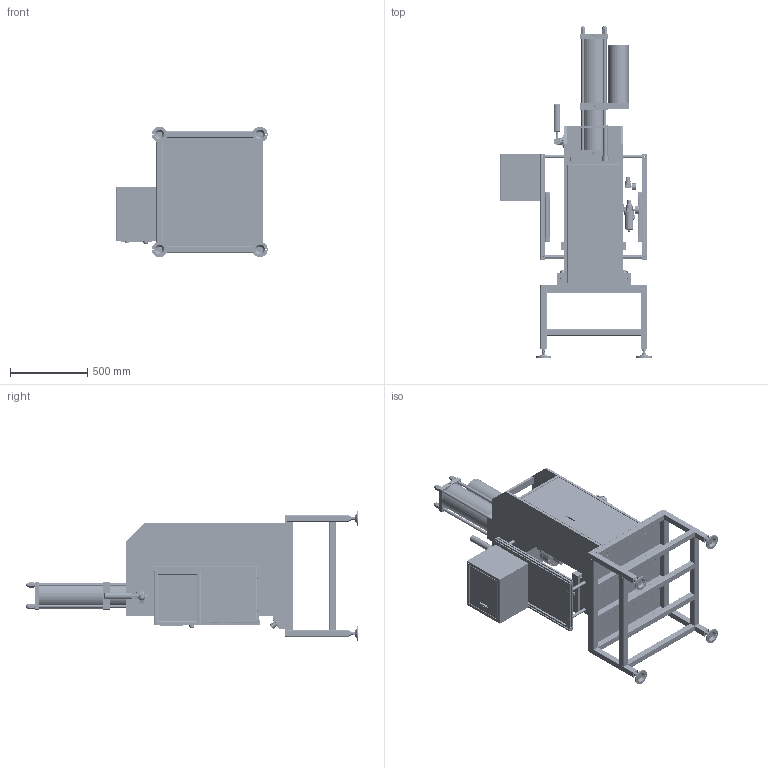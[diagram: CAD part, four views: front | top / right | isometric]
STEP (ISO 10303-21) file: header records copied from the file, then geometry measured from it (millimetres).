
FILE_DESCRIPTION((''),'2;1');
FILE_NAME('QPJ20T','2026-06-24T09:49:35',('zxb27'),(''),'CREO PARAMETRIC BY PTC INC, 2022164','CREO PARAMETRIC BY PTC INC, 2022164','');
FILE_SCHEMA(('AUTOMOTIVE_DESIGN { 1 0 10303 214 1 1 1 1 }'));
Products named in the file (1): QPJ20T
Bounding box: 980 x 2149.39 x 845 mm (x, y, z)
Surface area: 13371872.7 mm2 (no closed solid volume)
Topology: 0 solids, 152 shells, 9261 faces, 26489 edges, 17290 vertices
Faces by surface type: plane 5680, cylinder 2894, cone 282, bspline 226, torus 122, sphere 43, extrusion 14
Entity records: 469872 total; most frequent: CARTESIAN_POINT 165315, ORIENTED_EDGE 50844, DIRECTION 46238, EDGE_CURVE 26421, VECTOR 17648, LINE 17634, VERTEX_POINT 17290, PRESENTATION_STYLE_ASSIGNMENT 14634
